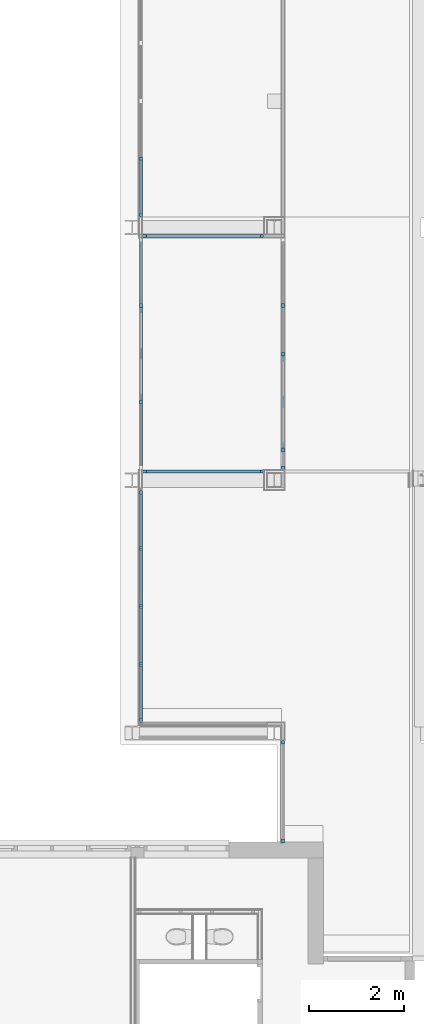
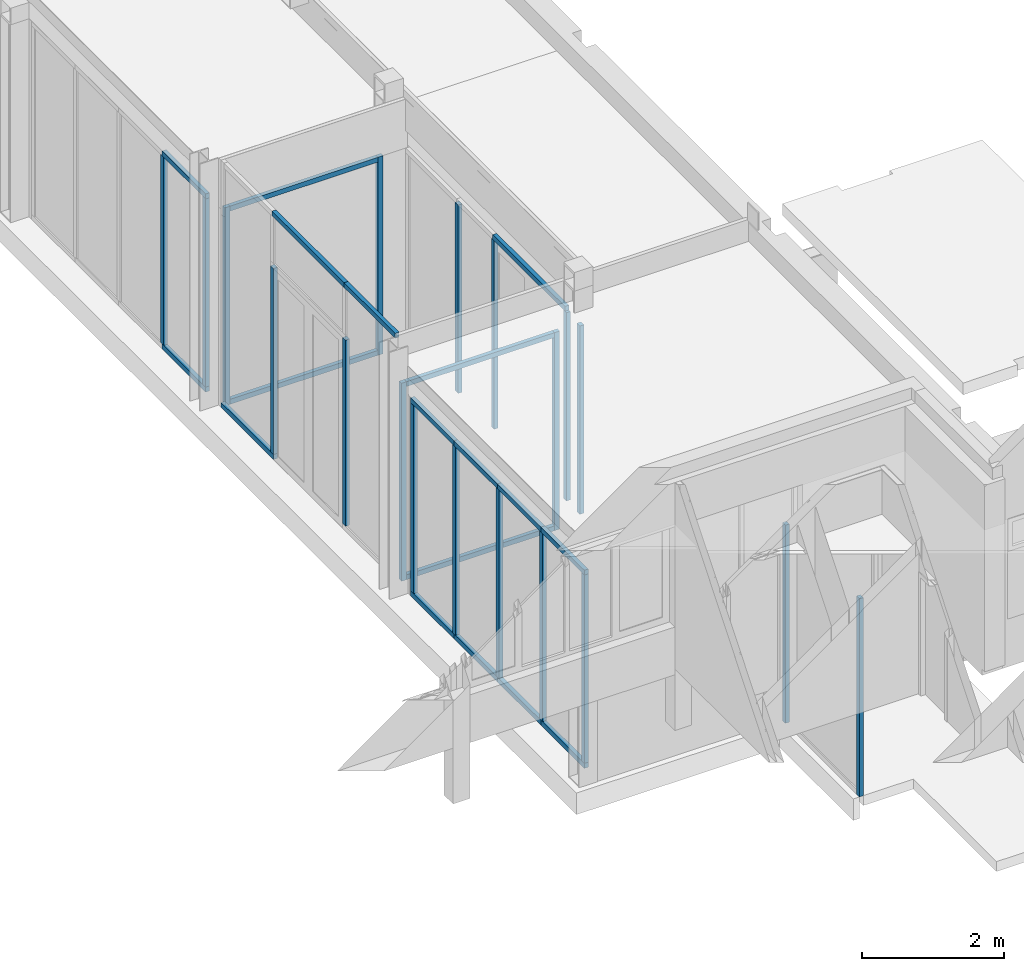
# One storey, part 2 of 99: 37 members, 7 elements without a shape of their own.
"""IFC2X3 building model written with IfcOpenShell, lengths in millimetres."""

from ifc_helpers import new_model, entity, si_unit, converted_unit, derived_unit, money_unit, direction, frame, origin_with_axes, place, context, subcontext, project, spatial, faceted_brep, source, transform, mapped, material, type_object, type_shapes, element, aggregate, save


model = new_model("IFC2X3")

# Units and contexts
model_context = context("Model", 3, precision=0.01, world=origin_with_axes(), true_north=direction((0.0, 1.0)))
body_context = subcontext(model_context, "Body", "Model", "MODEL_VIEW")
ifc_project = project(units=[si_unit("LENGTHUNIT", "METRE", prefix="MILLI"), si_unit("AREAUNIT", "SQUARE_METRE"), si_unit("VOLUMEUNIT", "CUBIC_METRE"), converted_unit("PLANEANGLEUNIT", "DEGREE", entity("IfcPlaneAngleMeasure", 0.0174532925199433), si_unit("PLANEANGLEUNIT", "RADIAN"), dimensions=[0, 0, 0, 0, 0, 0, 0]), money_unit("EUR"), converted_unit("TIMEUNIT", "Year", entity("IfcTimeMeasure", 31557600.0), si_unit("TIMEUNIT", "SECOND"), dimensions=[0, 0, 1, 0, 0, 0, 0]), si_unit("MASSUNIT", "GRAM", prefix="KILO"), si_unit("THERMODYNAMICTEMPERATUREUNIT", "DEGREE_CELSIUS"), si_unit("LUMINOUSINTENSITYUNIT", "LUMEN"), si_unit("ENERGYUNIT", "JOULE", prefix="MEGA"), derived_unit("THERMALCONDUCTANCEUNIT", [(si_unit("POWERUNIT", "WATT"), 1), (si_unit("LENGTHUNIT", "METRE"), -1), (si_unit("THERMODYNAMICTEMPERATUREUNIT", "KELVIN"), -1)]), derived_unit("SPECIFICHEATCAPACITYUNIT", [(si_unit("ENERGYUNIT", "JOULE"), 1), (si_unit("MASSUNIT", "GRAM", prefix="KILO"), -1), (si_unit("THERMODYNAMICTEMPERATUREUNIT", "KELVIN"), -1)]), derived_unit("MASSDENSITYUNIT", [(si_unit("MASSUNIT", "GRAM", prefix="KILO"), 1), (si_unit("VOLUMEUNIT", "CUBIC_METRE"), -1)])], contexts=[model_context])

# Site, building, storey
site_placement = place(None, origin_with_axes())
site = spatial("IfcSite", under=ifc_project, at=site_placement, Name="Site", CompositionType="ELEMENT")
building_placement = place(site_placement, origin_with_axes())
building = spatial("IfcBuilding", under=site, at=building_placement, Name="Naam gebouw", CompositionType="ELEMENT")
storey_placement = place(building_placement, frame((0.0, 0.0, 7650.0), z_axis=(0.0, 0.0, 1.0), x_axis=(1.0, 0.0, 0.0)))
storey = spatial("IfcBuildingStorey", under=building, at=storey_placement, Name="2e verdieping N", CompositionType="ELEMENT", Elevation=7650.0)

# Curtain wall, members
curtain_wall_type = type_object("IfcCurtainWallType", Name="Curtain Wall:21_CW_alu kozijn 084x065", PredefinedType="NOTDEFINED")
curtain_wall_1_placement = place(storey_placement, frame((0.0, 0.0, -7650.0), z_axis=(0.0, 0.0, 1.0), x_axis=(1.0, 0.0, 0.0)))
curtain_wall_1 = element("IfcCurtainWall", 1, at=curtain_wall_1_placement, inside=storey, type_object=curtain_wall_type, Name="Curtain Wall:21_CW_alu kozijn 084x065", ObjectType="Curtain Wall:21_CW_alu kozijn 084x065")
ifc_material = material(Name="RAL 7024 - Grafietgrijs")
member_type_1 = type_object("IfcMemberType", Name="Rectangular Mullion:31_alu_084x065 RAL 7024", PredefinedType="MULLION")
shared_shape_1 = source(origin_with_axes(), body_context, "Body", "Brep", [
    faceted_brep([(32.49999999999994, 1222.500000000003, 0.0), (32.49999999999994, 1222.500000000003, 84.0), (32.50000000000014, 0.0, 84.0), (32.50000000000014, 0.0, 0.0), (-32.50000000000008, 1222.500000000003, 0.0), (-32.50000000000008, 1222.500000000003, 84.0), (-32.49999999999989, 0.0, 84.0), (-32.49999999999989, 0.0, 0.0)], [[[0, 1, 2, 3]], [[0, 4, 5, 1]], [[1, 5, 6, 2]], [[3, 2, 6, 7]], [[4, 0, 3, 7]], [[5, 4, 7, 6]]]),
])
type_shapes(member_type_1, [shared_shape_1])
member_1_placement = place(curtain_wall_1_placement, frame((14474.50000003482, 24073.41242633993, 4150.0), z_axis=(0.0, 0.0, 1.0), x_axis=(1.0, 0.0, 0.0)))
member_1 = element("IfcMember", 2, at=member_1_placement, type_object=member_type_1, material=ifc_material, Name="Rectangular Mullion:31_alu_084x065 RAL 7024", ObjectType="MULLION", context=body_context, shape_type="MappedRepresentation", body=[
    mapped(shared_shape_1, transform((0.0, 0.0, 0.0))),
])
member_type_2 = type_object("IfcMemberType", Name="Rectangular Mullion:31_alu_084x065 RAL 7024", PredefinedType="MULLION")
type_shapes(member_type_2, [shared_shape_1])
member_2_placement = place(curtain_wall_1_placement, frame((14474.50000003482, 26518.41242628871, 4150.0), z_axis=(0.0, 0.0, 1.0), x_axis=(1.0, 0.0, 0.0)))
member_2 = element("IfcMember", 3, at=member_2_placement, type_object=member_type_2, material=ifc_material, Name="Rectangular Mullion:31_alu_084x065 RAL 7024", ObjectType="MULLION", context=body_context, shape_type="MappedRepresentation", body=[
    mapped(shared_shape_1, transform((0.0, 0.0, 0.0))),
])
member_3_placement = place(curtain_wall_1_placement, frame((14474.50000003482, 25295.91242631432, 4150.0), z_axis=(0.0, 0.0, 1.0), x_axis=(1.0, 0.0, 0.0)))
member_3 = element("IfcMember", 4, at=member_3_placement, type_object=member_type_1, material=ifc_material, Name="Rectangular Mullion:31_alu_084x065 RAL 7024", ObjectType="MULLION", context=body_context, shape_type="MappedRepresentation", body=[
    mapped(shared_shape_1, transform((0.0, 0.0, 0.0))),
])
member_type_3 = type_object("IfcMemberType", Name="Rectangular Mullion:31_alu_084x065 RAL 7024", PredefinedType="MULLION")
type_shapes(member_type_3, [shared_shape_1])
member_4_placement = place(curtain_wall_1_placement, frame((14474.50000003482, 22850.91242636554, 4150.0), z_axis=(0.0, 0.0, 1.0), x_axis=(1.0, 0.0, 0.0)))
member_4 = element("IfcMember", 5, at=member_4_placement, type_object=member_type_3, material=ifc_material, Name="Rectangular Mullion:31_alu_084x065 RAL 7024", ObjectType="MULLION", context=body_context, shape_type="MappedRepresentation", body=[
    mapped(shared_shape_1, transform((0.0, 0.0, 0.0))),
])
member_type_4 = type_object("IfcMemberType", Name="Rectangular Mullion:31_alu_084x065 RAL 7024", PredefinedType="MULLION")
shared_shape_2 = source(origin_with_axes(), body_context, "Body", "Brep", [
    faceted_brep([(42.00000000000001, -32.49999999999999, 3232.0), (-41.99999999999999, -32.50000000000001, 3232.0), (-41.99999999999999, -32.50000000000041, 0.0), (42.00000000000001, -32.50000000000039, 0.0), (41.99999999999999, 32.50000000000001, 3232.0), (-42.00000000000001, 32.49999999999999, 3232.0), (-42.00000000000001, 32.4999999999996, 0.0), (41.99999999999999, 32.49999999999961, 0.0)], [[[0, 1, 2, 3]], [[0, 4, 5, 1]], [[1, 5, 6, 2]], [[3, 2, 6, 7]], [[4, 0, 3, 7]], [[5, 4, 7, 6]]]),
])
type_shapes(member_type_4, [shared_shape_2])
member_5_placement = place(curtain_wall_1_placement, frame((14474.50000003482, 24073.41242633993, 4234.000000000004), z_axis=(0.0, 0.0, 1.0), x_axis=(0.0, 1.0, 0.0)))
member_5 = element("IfcMember", 6, at=member_5_placement, type_object=member_type_4, material=ifc_material, Name="Rectangular Mullion:31_alu_084x065 RAL 7024", ObjectType="MULLION", context=body_context, shape_type="MappedRepresentation", body=[
    mapped(shared_shape_2, transform((0.0, 0.0, 0.0))),
])
member_6_placement = place(curtain_wall_1_placement, frame((14474.50000003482, 26518.41242628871, 4234.000000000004), z_axis=(0.0, 0.0, 1.0), x_axis=(0.0, 1.0, 0.0)))
member_6 = element("IfcMember", 7, at=member_6_placement, type_object=member_type_4, material=ifc_material, Name="Rectangular Mullion:31_alu_084x065 RAL 7024", ObjectType="MULLION", context=body_context, shape_type="MappedRepresentation", body=[
    mapped(shared_shape_2, transform((0.0, 0.0, 0.0))),
])
member_7_placement = place(curtain_wall_1_placement, frame((14474.50000003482, 25295.91242631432, 4234.000000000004), z_axis=(0.0, 0.0, 1.0), x_axis=(0.0, 1.0, 0.0)))
member_7 = element("IfcMember", 8, at=member_7_placement, type_object=member_type_4, material=ifc_material, Name="Rectangular Mullion:31_alu_084x065 RAL 7024", ObjectType="MULLION", context=body_context, shape_type="MappedRepresentation", body=[
    mapped(shared_shape_2, transform((0.0, 0.0, 0.0))),
])

# Curtain wall, member
curtain_wall_2_placement = place(storey_placement, frame((0.0, 0.0, -7650.0), z_axis=(0.0, 0.0, 1.0), x_axis=(1.0, 0.0, 0.0)))
curtain_wall_2 = element("IfcCurtainWall", 9, at=curtain_wall_2_placement, inside=storey, type_object=curtain_wall_type, Name="Curtain Wall:21_CW_alu kozijn 084x065", ObjectType="Curtain Wall:21_CW_alu kozijn 084x065")
member_8_placement = place(curtain_wall_2_placement, frame((14474.50000003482, 34725.91242630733, 4234.000000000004), z_axis=(0.0, 0.0, 1.0), x_axis=(0.0, 1.0, 0.0)))
member_8 = element("IfcMember", 10, at=member_8_placement, type_object=member_type_4, material=ifc_material, Name="Rectangular Mullion:31_alu_084x065 RAL 7024", ObjectType="MULLION", context=body_context, shape_type="MappedRepresentation", body=[
    mapped(shared_shape_2, transform((0.0, 0.0, 0.0))),
])

# Curtain wall, members
curtain_wall_3_placement = place(storey_placement, frame((0.0, 0.0, -7650.0), z_axis=(0.0, 0.0, 1.0), x_axis=(1.0, 0.0, 0.0)))
curtain_wall_3 = element("IfcCurtainWall", 11, at=curtain_wall_3_placement, inside=storey, type_object=curtain_wall_type, Name="Curtain Wall:21_CW_alu kozijn 084x065", ObjectType="Curtain Wall:21_CW_alu kozijn 084x065")
member_9_placement = place(curtain_wall_3_placement, frame((17473.50000004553, 30620.91242626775, 4234.000000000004), z_axis=(0.0, 0.0, 1.0), x_axis=(0.0, 1.0, 0.0)))
member_9 = element("IfcMember", 12, at=member_9_placement, type_object=member_type_4, material=ifc_material, Name="Rectangular Mullion:31_alu_084x065 RAL 7024", ObjectType="MULLION", context=body_context, shape_type="MappedRepresentation", body=[
    mapped(shared_shape_2, transform((0.0, 0.0, 0.0))),
])
member_10_placement = place(curtain_wall_3_placement, frame((17473.49999998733, 28590.91242635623, 4234.000000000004), z_axis=(0.0, 0.0, 1.0), x_axis=(0.0, 1.0, 0.0)))
member_10 = element("IfcMember", 13, at=member_10_placement, type_object=member_type_4, material=ifc_material, Name="Rectangular Mullion:31_alu_084x065 RAL 7024", ObjectType="MULLION", context=body_context, shape_type="MappedRepresentation", body=[
    mapped(shared_shape_2, transform((0.0, 0.0, 0.0))),
])
member_11_placement = place(curtain_wall_3_placement, frame((17473.50000001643, 31635.91242633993, 4234.000000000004), z_axis=(0.0, 0.0, 1.0), x_axis=(0.0, 1.0, 0.0)))
member_11 = element("IfcMember", 14, at=member_11_placement, type_object=member_type_4, material=ifc_material, Name="Rectangular Mullion:31_alu_084x065 RAL 7024", ObjectType="MULLION", context=body_context, shape_type="MappedRepresentation", body=[
    mapped(shared_shape_2, transform((0.0, 0.0, 0.0))),
])

# Member
member_type_5 = type_object("IfcMemberType", Name="Rectangular Mullion:31_alu_084x065 RAL 7024", PredefinedType="MULLION")
shared_shape_3 = source(origin_with_axes(), body_context, "Body", "Brep", [
    faceted_brep([(32.50000000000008, -1222.500000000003, 0.0), (32.50000000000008, -1222.500000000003, -84.0), (32.49999999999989, 0.0, -84.0), (32.49999999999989, 0.0, 0.0), (-32.49999999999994, -1222.500000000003, 0.0), (-32.49999999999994, -1222.500000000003, -84.0), (-32.50000000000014, 0.0, -84.0), (-32.50000000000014, 0.0, 0.0)], [[[0, 1, 2, 3]], [[0, 4, 5, 1]], [[1, 5, 6, 2]], [[3, 2, 6, 7]], [[4, 0, 3, 7]], [[5, 4, 7, 6]]]),
])
type_shapes(member_type_5, [shared_shape_3])
member_12_placement = place(curtain_wall_1_placement, frame((14474.50000003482, 26518.41242628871, 7550.000000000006), z_axis=(0.0, 0.0, 1.0), x_axis=(1.0, 0.0, 0.0)))
member_12 = element("IfcMember", 15, at=member_12_placement, type_object=member_type_5, material=ifc_material, Name="Rectangular Mullion:31_alu_084x065 RAL 7024", ObjectType="MULLION", context=body_context, shape_type="MappedRepresentation", body=[
    mapped(shared_shape_3, transform((0.0, 0.0, 0.0))),
])

member_13_placement = place(curtain_wall_1_placement, frame((14474.50000003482, 25295.91242631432, 7550.000000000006), z_axis=(0.0, 0.0, 1.0), x_axis=(1.0, 0.0, 0.0)))
member_13 = element("IfcMember", 16, at=member_13_placement, type_object=member_type_5, material=ifc_material, Name="Rectangular Mullion:31_alu_084x065 RAL 7024", ObjectType="MULLION", context=body_context, shape_type="MappedRepresentation", body=[
    mapped(shared_shape_3, transform((0.0, 0.0, 0.0))),
])

member_type_6 = type_object("IfcMemberType", Name="Rectangular Mullion:31_alu_084x065 RAL 7024", PredefinedType="MULLION")
type_shapes(member_type_6, [shared_shape_3])
member_14_placement = place(curtain_wall_1_placement, frame((14474.50000000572, 27740.9124263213, 7550.000000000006), z_axis=(0.0, 0.0, 1.0), x_axis=(1.0, 0.0, 0.0)))
member_14 = element("IfcMember", 17, at=member_14_placement, type_object=member_type_6, material=ifc_material, Name="Rectangular Mullion:31_alu_084x065 RAL 7024", ObjectType="MULLION", context=body_context, shape_type="MappedRepresentation", body=[
    mapped(shared_shape_3, transform((0.0, 0.0, 0.0))),
])

member_type_7 = type_object("IfcMemberType", Name="Rectangular Mullion:31_alu_084x065 RAL 7024", PredefinedType="MULLION")
type_shapes(member_type_7, [shared_shape_3])
member_15_placement = place(curtain_wall_1_placement, frame((14474.50000003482, 24073.41242633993, 7550.000000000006), z_axis=(0.0, 0.0, 1.0), x_axis=(1.0, 0.0, 0.0)))
member_15 = element("IfcMember", 18, at=member_15_placement, type_object=member_type_7, material=ifc_material, Name="Rectangular Mullion:31_alu_084x065 RAL 7024", ObjectType="MULLION", context=body_context, shape_type="MappedRepresentation", body=[
    mapped(shared_shape_3, transform((0.0, 0.0, 0.0))),
])

member_type_8 = type_object("IfcMemberType", Name="Rectangular Mullion:31_alu_084x065 RAL 7024", PredefinedType="MULLION")
shared_shape_4 = source(origin_with_axes(), body_context, "Body", "Brep", [
    faceted_brep([(0.0, -32.5, 3232.0), (-83.99999999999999, -32.50000000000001, 3232.0), (-83.99999999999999, -32.50000000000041, 0.0), (0.0, -32.5000000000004, 0.0), (0.0, 32.50000000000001, 3232.0), (-84.00000000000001, 32.5, 3232.0), (-84.00000000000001, 32.4999999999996, 0.0), (0.0, 32.49999999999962, 0.0)], [[[0, 1, 2, 3]], [[0, 4, 5, 1]], [[1, 5, 6, 2]], [[3, 2, 6, 7]], [[4, 0, 3, 7]], [[5, 4, 7, 6]]]),
])
type_shapes(member_type_8, [shared_shape_4])
member_16_placement = place(curtain_wall_1_placement, frame((14474.50000000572, 27740.9124263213, 4234.000000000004), z_axis=(0.0, 0.0, 1.0), x_axis=(0.0, 1.0, 0.0)))
member_16 = element("IfcMember", 19, at=member_16_placement, type_object=member_type_8, material=ifc_material, Name="Rectangular Mullion:31_alu_084x065 RAL 7024", ObjectType="MULLION", context=body_context, shape_type="MappedRepresentation", body=[
    mapped(shared_shape_4, transform((0.0, 0.0, 0.0))),
])

member_type_9 = type_object("IfcMemberType", Name="Rectangular Mullion:31_alu_084x065 RAL 7024", PredefinedType="MULLION")
shared_shape_5 = source(origin_with_axes(), body_context, "Body", "Brep", [
    faceted_brep([(0.0, 32.5, -3232.0), (-83.99999999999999, 32.50000000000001, -3232.0), (-83.99999999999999, 32.50000000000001, 0.0), (0.0, 32.5, 0.0), (0.0, -32.50000000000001, -3232.0), (-84.00000000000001, -32.5, -3232.0), (-84.00000000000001, -32.5, 0.0), (0.0, -32.50000000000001, 0.0)], [[[0, 1, 2, 3]], [[0, 4, 5, 1]], [[1, 5, 6, 2]], [[3, 2, 6, 7]], [[4, 0, 3, 7]], [[5, 4, 7, 6]]]),
])
type_shapes(member_type_9, [shared_shape_5])
member_17_placement = place(curtain_wall_1_placement, frame((14474.50000003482, 22850.91242636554, 7466.000000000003), z_axis=(0.0, 0.0, 1.0), x_axis=(0.0, -1.0, 0.0)))
member_17 = element("IfcMember", 20, at=member_17_placement, type_object=member_type_9, material=ifc_material, Name="Rectangular Mullion:31_alu_084x065 RAL 7024", ObjectType="MULLION", context=body_context, shape_type="MappedRepresentation", body=[
    mapped(shared_shape_5, transform((0.0, 0.0, 0.0))),
])

aggregate(curtain_wall_1, [member_5, member_1, member_2, member_12, member_6, member_13, member_3, member_14, member_7, member_16, member_4, member_17, member_15])

member_18_placement = place(curtain_wall_2_placement, frame((14474.50000003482, 33500.91242627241, 7466.000000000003), z_axis=(0.0, 0.0, 1.0), x_axis=(0.0, -1.0, 0.0)))
member_18 = element("IfcMember", 21, at=member_18_placement, type_object=member_type_9, material=ifc_material, Name="Rectangular Mullion:31_alu_084x065 RAL 7024", ObjectType="MULLION", context=body_context, shape_type="MappedRepresentation", body=[
    mapped(shared_shape_5, transform((0.0, 0.0, 0.0))),
])

member_19_placement = place(curtain_wall_3_placement, frame((17473.50000004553, 28170.91242631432, 7466.000000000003), z_axis=(0.0, 0.0, 1.0), x_axis=(0.0, -1.0, 0.0)))
member_19 = element("IfcMember", 22, at=member_19_placement, type_object=member_type_9, material=ifc_material, Name="Rectangular Mullion:31_alu_084x065 RAL 7024", ObjectType="MULLION", context=body_context, shape_type="MappedRepresentation", body=[
    mapped(shared_shape_5, transform((0.0, 0.0, 0.0))),
])

# Curtain wall, member
curtain_wall_4_placement = place(storey_placement, frame((0.0, 0.0, -7650.0), z_axis=(0.0, 0.0, 1.0), x_axis=(1.0, 0.0, 0.0)))
curtain_wall_4 = element("IfcCurtainWall", 23, at=curtain_wall_4_placement, inside=storey, type_object=curtain_wall_type, Name="Curtain Wall:21_CW_alu kozijn 084x065", ObjectType="Curtain Wall:21_CW_alu kozijn 084x065")
member_type_10 = type_object("IfcMemberType", Name="Rectangular Mullion:31_alu_084x065 RAL 7024", PredefinedType="MULLION")
shared_shape_6 = source(origin_with_axes(), body_context, "Body", "Brep", [
    faceted_brep([(32.50000000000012, -2030.0, 0.0), (32.50000000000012, -2030.0, -84.0), (32.49999999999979, -1.971756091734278e-10, -84.0), (32.49999999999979, -1.971756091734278e-10, 0.0), (-32.4999999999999, -2030.0, 0.0), (-32.4999999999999, -2030.0, -84.0), (-32.50000000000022, -1.971756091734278e-10, -84.0), (-32.50000000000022, -1.971756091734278e-10, 0.0)], [[[0, 1, 2, 3]], [[0, 4, 5, 1]], [[1, 5, 6, 2]], [[3, 2, 6, 7]], [[4, 0, 3, 7]], [[5, 4, 7, 6]]]),
])
type_shapes(member_type_10, [shared_shape_6])
member_20_placement = place(curtain_wall_4_placement, frame((14474.50000000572, 31635.91242628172, 8390.00000000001), z_axis=(0.0, 0.0, 1.0), x_axis=(1.0, 0.0, 0.0)))
member_20 = element("IfcMember", 24, at=member_20_placement, type_object=member_type_10, material=ifc_material, Name="Rectangular Mullion:31_alu_084x065 RAL 7024", ObjectType="MULLION", context=body_context, shape_type="MappedRepresentation", body=[
    mapped(shared_shape_6, transform((0.0, 0.0, 0.0))),
])

# Member
member_21_placement = place(curtain_wall_3_placement, frame((17473.50000004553, 30620.91242626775, 7550.000000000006), z_axis=(0.0, 0.0, 1.0), x_axis=(1.0, 0.0, 0.0)))
member_21 = element("IfcMember", 25, at=member_21_placement, type_object=member_type_10, material=ifc_material, Name="Rectangular Mullion:31_alu_084x065 RAL 7024", ObjectType="MULLION", context=body_context, shape_type="MappedRepresentation", body=[
    mapped(shared_shape_6, transform((0.0, 0.0, 0.0))),
])

aggregate(curtain_wall_3, [member_19, member_21, member_9, member_10, member_11])

member_type_11 = type_object("IfcMemberType", Name="Rectangular Mullion:31_alu_084x065 RAL 7024", PredefinedType="MULLION")
shared_shape_7 = source(origin_with_axes(), body_context, "Body", "Brep", [
    faceted_brep([(32.49999999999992, 1477.0, 0.0), (32.49999999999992, 1477.0, 84.0), (32.50000000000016, -1.727507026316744e-10, 84.0), (32.50000000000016, -1.727507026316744e-10, 0.0), (-32.50000000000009, 1477.0, 0.0), (-32.50000000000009, 1477.0, 84.0), (-32.49999999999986, -1.727507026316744e-10, 84.0), (-32.49999999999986, -1.727507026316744e-10, 0.0)], [[[0, 1, 2, 3]], [[0, 4, 5, 1]], [[1, 5, 6, 2]], [[3, 2, 6, 7]], [[4, 0, 3, 7]], [[5, 4, 7, 6]]]),
])
type_shapes(member_type_11, [shared_shape_7])
member_22_placement = place(curtain_wall_4_placement, frame((14474.50000003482, 31593.9124263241, 4150.0), z_axis=(0.0, 0.0, 1.0), x_axis=(1.0, 0.0, 0.0)))
member_22 = element("IfcMember", 26, at=member_22_placement, type_object=member_type_11, material=ifc_material, Name="Rectangular Mullion:31_alu_084x065 RAL 7024", ObjectType="MULLION", context=body_context, shape_type="MappedRepresentation", body=[
    mapped(shared_shape_7, transform((0.0, 0.0, 0.0))),
])

member_type_12 = type_object("IfcMemberType", Name="Rectangular Mullion:31_alu_084x065 RAL 7024", PredefinedType="MULLION")
shared_shape_8 = source(origin_with_axes(), body_context, "Body", "Brep", [
    faceted_brep([(32.50000000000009, -1435.0, 0.0), (32.50000000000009, -1435.0, -84.0), (32.49999999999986, 1.729727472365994e-10, -84.0), (32.49999999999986, 1.729727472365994e-10, 0.0), (-32.49999999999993, -1435.0, 0.0), (-32.49999999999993, -1435.0, -84.0), (-32.50000000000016, 1.729727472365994e-10, -84.0), (-32.50000000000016, 1.729727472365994e-10, 0.0)], [[[0, 1, 2, 3]], [[0, 4, 5, 1]], [[1, 5, 6, 2]], [[3, 2, 6, 7]], [[4, 0, 3, 7]], [[5, 4, 7, 6]]]),
])
type_shapes(member_type_12, [shared_shape_8])
member_23_placement = place(curtain_wall_4_placement, frame((14474.50000003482, 29605.91242631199, 8390.00000000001), z_axis=(0.0, 0.0, 1.0), x_axis=(1.0, 0.0, 0.0)))
member_23 = element("IfcMember", 27, at=member_23_placement, type_object=member_type_12, material=ifc_material, Name="Rectangular Mullion:31_alu_084x065 RAL 7024", ObjectType="MULLION", context=body_context, shape_type="MappedRepresentation", body=[
    mapped(shared_shape_8, transform((0.0, 0.0, 0.0))),
])

member_type_13 = type_object("IfcMemberType", Name="Rectangular Mullion:31_alu_084x065 RAL 7024", PredefinedType="MULLION")
shared_shape_9 = source(origin_with_axes(), body_context, "Body", "Brep", [
    faceted_brep([(42.00000000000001, -32.5, 3194.0), (-41.99999999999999, -32.50000000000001, 3194.0), (-41.99999999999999, -32.50000000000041, 3.97459842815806e-10), (42.00000000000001, -32.50000000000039, 3.97459842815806e-10), (41.99999999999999, 32.5, 3194.0), (-42.00000000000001, 32.49999999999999, 3194.0), (-42.00000000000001, 32.4999999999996, 3.97459842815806e-10), (41.99999999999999, 32.49999999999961, 3.97459842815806e-10)], [[[0, 1, 2, 3]], [[0, 4, 5, 1]], [[1, 5, 6, 2]], [[3, 2, 6, 7]], [[4, 0, 3, 7]], [[5, 4, 7, 6]]]),
])
type_shapes(member_type_13, [shared_shape_9])
member_24_placement = place(curtain_wall_4_placement, frame((14474.50000000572, 31635.91242628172, 4234.000000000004), z_axis=(0.0, 0.0, 1.0), x_axis=(0.0, 1.0, 0.0)))
member_24 = element("IfcMember", 28, at=member_24_placement, type_object=member_type_13, material=ifc_material, Name="Rectangular Mullion:31_alu_084x065 RAL 7024", ObjectType="MULLION", context=body_context, shape_type="MappedRepresentation", body=[
    mapped(shared_shape_9, transform((0.0, 0.0, 0.0))),
])

member_25_placement = place(curtain_wall_4_placement, frame((14474.50000003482, 29605.91242631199, 4234.000000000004), z_axis=(0.0, 0.0, 1.0), x_axis=(0.0, 1.0, 0.0)))
member_25 = element("IfcMember", 29, at=member_25_placement, type_object=member_type_13, material=ifc_material, Name="Rectangular Mullion:31_alu_084x065 RAL 7024", ObjectType="MULLION", context=body_context, shape_type="MappedRepresentation", body=[
    mapped(shared_shape_9, transform((0.0, 0.0, 0.0))),
])

aggregate(curtain_wall_4, [member_24, member_23, member_22, member_20, member_25])

member_type_14 = type_object("IfcMemberType", Name="Rectangular Mullion:31_alu_084x065 RAL 7024", PredefinedType="MULLION")
shared_shape_10 = source(origin_with_axes(), body_context, "Body", "Brep", [
    faceted_brep([(32.50000000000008, -1225.0, 0.0), (32.50000000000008, -1225.0, -84.0), (32.49999999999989, 0.0, -84.0), (32.49999999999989, 0.0, 0.0), (-32.49999999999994, -1225.0, 0.0), (-32.49999999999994, -1225.0, -84.0), (-32.50000000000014, 0.0, -84.0), (-32.50000000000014, 0.0, 0.0)], [[[0, 1, 2, 3]], [[0, 4, 5, 1]], [[1, 5, 6, 2]], [[3, 2, 6, 7]], [[4, 0, 3, 7]], [[5, 4, 7, 6]]]),
])
type_shapes(member_type_14, [shared_shape_10])
member_26_placement = place(curtain_wall_2_placement, frame((14474.50000003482, 34725.91242630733, 7550.000000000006), z_axis=(0.0, 0.0, 1.0), x_axis=(1.0, 0.0, 0.0)))
member_26 = element("IfcMember", 30, at=member_26_placement, type_object=member_type_14, material=ifc_material, Name="Rectangular Mullion:31_alu_084x065 RAL 7024", ObjectType="MULLION", context=body_context, shape_type="MappedRepresentation", body=[
    mapped(shared_shape_10, transform((0.0, 0.0, 0.0))),
])

member_type_15 = type_object("IfcMemberType", Name="Rectangular Mullion:31_alu_084x065 RAL 7024", PredefinedType="MULLION")
shared_shape_11 = source(origin_with_axes(), body_context, "Body", "Brep", [
    faceted_brep([(32.49999999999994, 1225.0, 0.0), (32.49999999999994, 1225.0, 84.0), (32.50000000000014, 0.0, 84.0), (32.50000000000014, 0.0, 0.0), (-32.50000000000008, 1225.0, 0.0), (-32.50000000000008, 1225.0, 84.0), (-32.49999999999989, 0.0, 84.0), (-32.49999999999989, 0.0, 0.0)], [[[0, 1, 2, 3]], [[0, 4, 5, 1]], [[1, 5, 6, 2]], [[3, 2, 6, 7]], [[4, 0, 3, 7]], [[5, 4, 7, 6]]]),
])
type_shapes(member_type_15, [shared_shape_11])
member_27_placement = place(curtain_wall_2_placement, frame((14474.50000003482, 33500.91242627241, 4150.0), z_axis=(0.0, 0.0, 1.0), x_axis=(1.0, 0.0, 0.0)))
member_27 = element("IfcMember", 31, at=member_27_placement, type_object=member_type_15, material=ifc_material, Name="Rectangular Mullion:31_alu_084x065 RAL 7024", ObjectType="MULLION", context=body_context, shape_type="MappedRepresentation", body=[
    mapped(shared_shape_11, transform((0.0, 0.0, 0.0))),
])

aggregate(curtain_wall_2, [member_27, member_18, member_8, member_26])

# Curtain wall, member
curtain_wall_5_placement = place(storey_placement, frame((0.0, 0.0, -7650.0), z_axis=(0.0, 0.0, 1.0), x_axis=(1.0, 0.0, 0.0)))
curtain_wall_5 = element("IfcCurtainWall", 32, at=curtain_wall_5_placement, inside=storey, type_object=curtain_wall_type, Name="Curtain Wall:21_CW_alu kozijn 084x065", ObjectType="Curtain Wall:21_CW_alu kozijn 084x065")
member_type_16 = type_object("IfcMemberType", Name="Rectangular Mullion:31_alu_084x065 RAL 7024", PredefinedType="MULLION")
shared_shape_12 = source(origin_with_axes(), body_context, "Body", "Brep", [
    faceted_brep([(0.0, 32.5, -3400.0), (-83.99999999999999, 32.50000000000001, -3400.0), (-83.99999999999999, 32.50000000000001, 0.0), (0.0, 32.5, 0.0), (0.0, -32.50000000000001, -3400.0), (-84.00000000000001, -32.5, -3400.0), (-84.00000000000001, -32.5, 0.0), (0.0, -32.50000000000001, 0.0)], [[[0, 1, 2, 3]], [[0, 4, 5, 1]], [[1, 5, 6, 2]], [[3, 2, 6, 7]], [[4, 0, 3, 7]], [[5, 4, 7, 6]]]),
])
type_shapes(member_type_16, [shared_shape_12])
member_28_placement = place(curtain_wall_5_placement, frame((17076.00000005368, 28138.41242628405, 7550.000000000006), z_axis=(0.0, 0.0, 1.0), x_axis=(1.0, 0.0, 0.0)))
member_28 = element("IfcMember", 33, at=member_28_placement, type_object=member_type_16, material=ifc_material, Name="Rectangular Mullion:31_alu_084x065 RAL 7024", ObjectType="MULLION", context=body_context, shape_type="MappedRepresentation", body=[
    mapped(shared_shape_12, transform((0.0, 0.0, 0.0))),
])

curtain_wall_6_placement = place(storey_placement, frame((0.0, 0.0, -7650.0), z_axis=(0.0, 0.0, 1.0), x_axis=(1.0, 0.0, 0.0)))
curtain_wall_6 = element("IfcCurtainWall", 34, at=curtain_wall_6_placement, inside=storey, type_object=curtain_wall_type, Name="Curtain Wall:21_CW_alu kozijn 084x065", ObjectType="Curtain Wall:21_CW_alu kozijn 084x065")
member_29_placement = place(curtain_wall_6_placement, frame((17474.50000003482, 20310.88439858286, 7550.000000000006), z_axis=(0.0, 0.0, 1.0), x_axis=(0.0, -1.0, 0.0)))
member_29 = element("IfcMember", 35, at=member_29_placement, type_object=member_type_16, material=ifc_material, Name="Rectangular Mullion:31_alu_084x065 RAL 7024", ObjectType="MULLION", context=body_context, shape_type="MappedRepresentation", body=[
    mapped(shared_shape_12, transform((0.0, 0.0, 0.0))),
])

curtain_wall_7_placement = place(storey_placement, frame((0.0, 0.0, -7650.0), z_axis=(0.0, 0.0, 1.0), x_axis=(1.0, 0.0, 0.0)))
curtain_wall_7 = element("IfcCurtainWall", 36, at=curtain_wall_7_placement, inside=storey, type_object=curtain_wall_type, Name="Curtain Wall:21_CW_alu kozijn 084x065", ObjectType="Curtain Wall:21_CW_alu kozijn 084x065")
member_type_17 = type_object("IfcMemberType", Name="Rectangular Mullion:31_alu_084x065 RAL 7024", PredefinedType="MULLION")
type_shapes(member_type_17, [shared_shape_12])
member_30_placement = place(curtain_wall_7_placement, frame((17076.00000005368, 33103.41242625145, 7550.000000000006), z_axis=(0.0, 0.0, 1.0), x_axis=(1.0, 0.0, 0.0)))
member_30 = element("IfcMember", 37, at=member_30_placement, type_object=member_type_17, material=ifc_material, Name="Rectangular Mullion:31_alu_084x065 RAL 7024", ObjectType="MULLION", context=body_context, shape_type="MappedRepresentation", body=[
    mapped(shared_shape_12, transform((0.0, 0.0, 0.0))),
])

# Member
member_type_18 = type_object("IfcMemberType", Name="Rectangular Mullion:31_alu_084x065 RAL 7024", PredefinedType="MULLION")
shared_shape_13 = source(origin_with_axes(), body_context, "Body", "Brep", [
    faceted_brep([(0.0, -32.5, 3400.0), (-83.99999999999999, -32.50000000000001, 3400.0), (-83.99999999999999, -32.50000000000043, 0.0), (0.0, -32.50000000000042, 0.0), (0.0, 32.50000000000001, 3400.0), (-84.00000000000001, 32.5, 3400.0), (-84.00000000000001, 32.49999999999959, 0.0), (0.0, 32.4999999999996, 0.0)], [[[0, 1, 2, 3]], [[0, 4, 5, 1]], [[1, 5, 6, 2]], [[3, 2, 6, 7]], [[4, 0, 3, 7]], [[5, 4, 7, 6]]]),
])
type_shapes(member_type_18, [shared_shape_13])
member_31_placement = place(curtain_wall_5_placement, frame((14507.00000003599, 28138.41242634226, 4150.0), z_axis=(0.0, 0.0, 1.0), x_axis=(-1.0, 0.0, 0.0)))
member_31 = element("IfcMember", 38, at=member_31_placement, type_object=member_type_18, material=ifc_material, Name="Rectangular Mullion:31_alu_084x065 RAL 7024", ObjectType="MULLION", context=body_context, shape_type="MappedRepresentation", body=[
    mapped(shared_shape_13, transform((0.0, 0.0, 0.0))),
])

member_32_placement = place(curtain_wall_6_placement, frame((17474.50000000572, 22475.91242636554, 4150.0), z_axis=(0.0, 0.0, 1.0), x_axis=(0.0, 1.0, 0.0)))
member_32 = element("IfcMember", 39, at=member_32_placement, type_object=member_type_18, material=ifc_material, Name="Rectangular Mullion:31_alu_084x065 RAL 7024", ObjectType="MULLION", context=body_context, shape_type="MappedRepresentation", body=[
    mapped(shared_shape_13, transform((0.0, 0.0, 0.0))),
])

aggregate(curtain_wall_6, [member_32, member_29])

member_type_19 = type_object("IfcMemberType", Name="Rectangular Mullion:31_alu_084x065 RAL 7024", PredefinedType="MULLION")
type_shapes(member_type_19, [shared_shape_13])
member_33_placement = place(curtain_wall_7_placement, frame((14507.00000003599, 33103.41242630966, 4150.0), z_axis=(0.0, 0.0, 1.0), x_axis=(-1.0, 0.0, 0.0)))
member_33 = element("IfcMember", 40, at=member_33_placement, type_object=member_type_19, material=ifc_material, Name="Rectangular Mullion:31_alu_084x065 RAL 7024", ObjectType="MULLION", context=body_context, shape_type="MappedRepresentation", body=[
    mapped(shared_shape_13, transform((0.0, 0.0, 0.0))),
])

member_type_20 = type_object("IfcMemberType", Name="Rectangular Mullion:31_alu_084x065 RAL 7024", PredefinedType="MULLION")
shared_shape_14 = source(origin_with_axes(), body_context, "Body", "Brep", [
    faceted_brep([(32.50000000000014, -2401.0, 0.0), (32.50000000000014, -2401.0, -84.0), (32.49999999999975, 0.0, -84.0), (32.49999999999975, 0.0, 0.0), (-32.49999999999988, -2401.0, 0.0), (-32.49999999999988, -2401.0, -84.0), (-32.50000000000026, 0.0, -84.0), (-32.50000000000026, 0.0, 0.0)], [[[0, 1, 2, 3]], [[0, 4, 5, 1]], [[1, 5, 6, 2]], [[3, 2, 6, 7]], [[4, 0, 3, 7]], [[5, 4, 7, 6]]]),
])
type_shapes(member_type_20, [shared_shape_14])
member_34_placement = place(curtain_wall_5_placement, frame((14591.00000000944, 28138.41242628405, 7550.000000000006), z_axis=(0.0, 0.0, 1.0), x_axis=(0.0, 1.0, 0.0)))
member_34 = element("IfcMember", 41, at=member_34_placement, type_object=member_type_20, material=ifc_material, Name="Rectangular Mullion:31_alu_084x065 RAL 7024", ObjectType="MULLION", context=body_context, shape_type="MappedRepresentation", body=[
    mapped(shared_shape_14, transform((0.0, 0.0, 0.0))),
])

member_type_21 = type_object("IfcMemberType", Name="Rectangular Mullion:31_alu_084x065 RAL 7024", PredefinedType="MULLION")
type_shapes(member_type_21, [shared_shape_14])
member_35_placement = place(curtain_wall_7_placement, frame((14591.00000003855, 33103.41242630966, 7550.000000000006), z_axis=(0.0, 0.0, 1.0), x_axis=(0.0, 1.0, 0.0)))
member_35 = element("IfcMember", 42, at=member_35_placement, type_object=member_type_21, material=ifc_material, Name="Rectangular Mullion:31_alu_084x065 RAL 7024", ObjectType="MULLION", context=body_context, shape_type="MappedRepresentation", body=[
    mapped(shared_shape_14, transform((0.0, 0.0, 0.0))),
])

member_type_22 = type_object("IfcMemberType", Name="Rectangular Mullion:31_alu_084x065 RAL 7024", PredefinedType="MULLION")
shared_shape_15 = source(origin_with_axes(), body_context, "Body", "Brep", [
    faceted_brep([(32.49999999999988, 2401.0, 0.0), (32.49999999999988, 2401.0, 84.0), (32.50000000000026, 0.0, 84.0), (32.50000000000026, 0.0, 0.0), (-32.50000000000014, 2401.0, 0.0), (-32.50000000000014, 2401.0, 84.0), (-32.49999999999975, 0.0, 84.0), (-32.49999999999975, 0.0, 0.0)], [[[0, 1, 2, 3]], [[0, 4, 5, 1]], [[1, 5, 6, 2]], [[3, 2, 6, 7]], [[4, 0, 3, 7]], [[5, 4, 7, 6]]]),
])
type_shapes(member_type_22, [shared_shape_15])
member_36_placement = place(curtain_wall_5_placement, frame((16992.00000002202, 28138.41242628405, 4150.0), z_axis=(0.0, 0.0, 1.0), x_axis=(0.0, 1.0, 0.0)))
member_36 = element("IfcMember", 43, at=member_36_placement, type_object=member_type_22, material=ifc_material, Name="Rectangular Mullion:31_alu_084x065 RAL 7024", ObjectType="MULLION", context=body_context, shape_type="MappedRepresentation", body=[
    mapped(shared_shape_15, transform((0.0, 0.0, 0.0))),
])

aggregate(curtain_wall_5, [member_36, member_28, member_31, member_34])

member_type_23 = type_object("IfcMemberType", Name="Rectangular Mullion:31_alu_084x065 RAL 7024", PredefinedType="MULLION")
type_shapes(member_type_23, [shared_shape_15])
member_37_placement = place(curtain_wall_7_placement, frame((16992.00000005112, 33103.41242630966, 4150.0), z_axis=(0.0, 0.0, 1.0), x_axis=(0.0, 1.0, 0.0)))
member_37 = element("IfcMember", 44, at=member_37_placement, type_object=member_type_23, material=ifc_material, Name="Rectangular Mullion:31_alu_084x065 RAL 7024", ObjectType="MULLION", context=body_context, shape_type="MappedRepresentation", body=[
    mapped(shared_shape_15, transform((0.0, 0.0, 0.0))),
])

aggregate(curtain_wall_7, [member_35, member_33, member_37, member_30])

save(model, "model.ifc")
